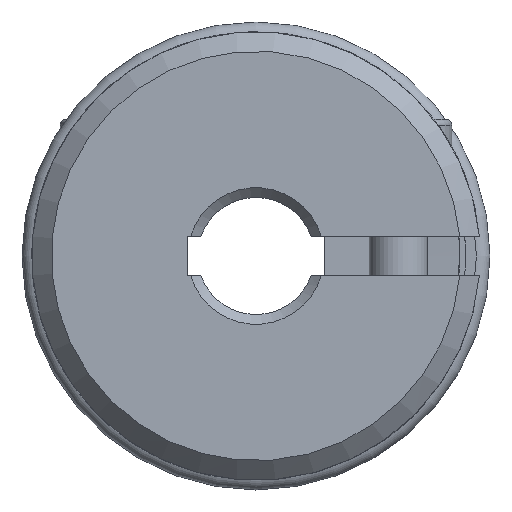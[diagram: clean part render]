
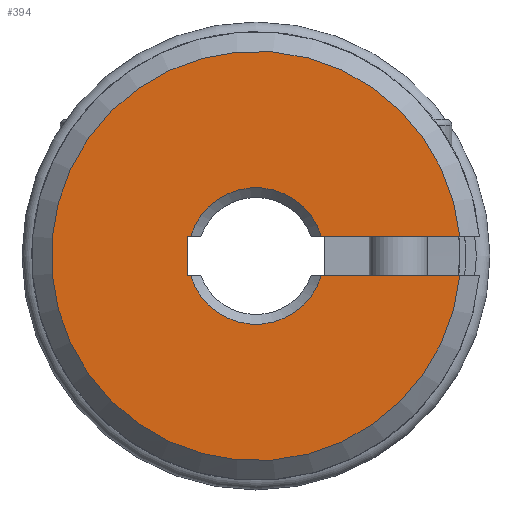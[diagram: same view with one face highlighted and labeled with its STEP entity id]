
A CAD part, left-side view. The second image highlights one B-rep face of the part: STEP entity #394.
In plain terms, the highlighted planar face has unit normal (-1, 0, 0).
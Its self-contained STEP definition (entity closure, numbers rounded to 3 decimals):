
#394 = ADVANCED_FACE( '', ( #851 ), #852, .T. );
#851 = FACE_OUTER_BOUND( '', #1304, .T. );
#852 = PLANE( '', #1305 );
#1304 = EDGE_LOOP( '', ( #2269, #2270, #2271, #2272, #2273, #2274, #2275, #2276 ) );
#1305 = AXIS2_PLACEMENT_3D( '', #2277, #2278, #2279 );
#2269 = ORIENTED_EDGE( '', *, *, #2371, .T. );
#2270 = ORIENTED_EDGE( '', *, *, #2530, .T. );
#2271 = ORIENTED_EDGE( '', *, *, #2430, .T. );
#2272 = ORIENTED_EDGE( '', *, *, #2518, .F. );
#2273 = ORIENTED_EDGE( '', *, *, #2565, .T. );
#2274 = ORIENTED_EDGE( '', *, *, #2415, .T. );
#2275 = ORIENTED_EDGE( '', *, *, #2663, .T. );
#2276 = ORIENTED_EDGE( '', *, *, #2553, .T. );
#2277 = CARTESIAN_POINT( '', ( -14.78, 0., 2. ) );
#2278 = DIRECTION( '', ( -1., 0., 0. ) );
#2279 = DIRECTION( '', ( 0., -1., 0. ) );
#2371 = EDGE_CURVE( '', #2786, #2784, #2787, .T. );
#2415 = EDGE_CURVE( '', #2856, #2860, #2862, .F. );
#2430 = EDGE_CURVE( '', #2885, #2886, #2887, .T. );
#2518 = EDGE_CURVE( '', #3017, #2886, #3018, .T. );
#2530 = EDGE_CURVE( '', #2784, #2885, #3033, .F. );
#2553 = EDGE_CURVE( '', #3066, #2786, #3067, .T. );
#2565 = EDGE_CURVE( '', #3017, #2856, #3085, .T. );
#2663 = EDGE_CURVE( '', #2860, #3066, #3205, .T. );
#2784 = VERTEX_POINT( '', #3432 );
#2786 = VERTEX_POINT( '', #3437 );
#2787 = LINE( '', #3438, #3439 );
#2856 = VERTEX_POINT( '', #3529 );
#2860 = VERTEX_POINT( '', #3536 );
#2862 = CIRCLE( '', #3541, 3.5 );
#2885 = VERTEX_POINT( '', #3570 );
#2886 = VERTEX_POINT( '', #3571 );
#2887 = LINE( '', #3572, #3573 );
#3017 = VERTEX_POINT( '', #3746 );
#3018 = CIRCLE( '', #3747, 10.5 );
#3033 = CIRCLE( '', #3764, 3.5 );
#3066 = VERTEX_POINT( '', #3808 );
#3067 = LINE( '', #3809, #3810 );
#3085 = LINE( '', #3833, #3834 );
#3205 = LINE( '', #4132, #4133 );
#3432 = CARTESIAN_POINT( '', ( -14.78, 3.354, 1. ) );
#3437 = CARTESIAN_POINT( '', ( -14.78, 3.5, 1. ) );
#3438 = CARTESIAN_POINT( '', ( -14.78, 3.5, 1. ) );
#3439 = VECTOR( '', #4230, 1000. );
#3529 = CARTESIAN_POINT( '', ( -14.78, -3.354, -1. ) );
#3536 = CARTESIAN_POINT( '', ( -14.78, 3.354, -1. ) );
#3541 = AXIS2_PLACEMENT_3D( '', #4285, #4286, #4287 );
#3570 = CARTESIAN_POINT( '', ( -14.78, -3.354, 1. ) );
#3571 = CARTESIAN_POINT( '', ( -14.78, -10.452, 1. ) );
#3572 = CARTESIAN_POINT( '', ( -14.78, 0., 1. ) );
#3573 = VECTOR( '', #4309, 1000. );
#3746 = CARTESIAN_POINT( '', ( -14.78, -10.452, -1. ) );
#3747 = AXIS2_PLACEMENT_3D( '', #4437, #4438, #4439 );
#3764 = AXIS2_PLACEMENT_3D( '', #4457, #4458, #4459 );
#3808 = CARTESIAN_POINT( '', ( -14.78, 3.5, -1. ) );
#3809 = CARTESIAN_POINT( '', ( -14.78, 3.5, -1. ) );
#3810 = VECTOR( '', #4489, 1000. );
#3833 = CARTESIAN_POINT( '', ( -14.78, -18., -1. ) );
#3834 = VECTOR( '', #4504, 1000. );
#4132 = CARTESIAN_POINT( '', ( -14.78, 0., -1. ) );
#4133 = VECTOR( '', #4591, 1000. );
#4230 = DIRECTION( '', ( 0., -1., 0. ) );
#4285 = CARTESIAN_POINT( '', ( -14.78, 0., 0. ) );
#4286 = DIRECTION( '', ( -1., 0., 0. ) );
#4287 = DIRECTION( '', ( 0., -1., 0. ) );
#4309 = DIRECTION( '', ( 0., -1., 0. ) );
#4437 = CARTESIAN_POINT( '', ( -14.78, 0., 0. ) );
#4438 = DIRECTION( '', ( 1., 0., 0. ) );
#4439 = DIRECTION( '', ( 0., 0., 1. ) );
#4457 = CARTESIAN_POINT( '', ( -14.78, 0., 0. ) );
#4458 = DIRECTION( '', ( -1., 0., 0. ) );
#4459 = DIRECTION( '', ( 0., -1., 0. ) );
#4489 = DIRECTION( '', ( 0., 0., 1. ) );
#4504 = DIRECTION( '', ( 0., 1., 0. ) );
#4591 = DIRECTION( '', ( 0., 1., 0. ) );
